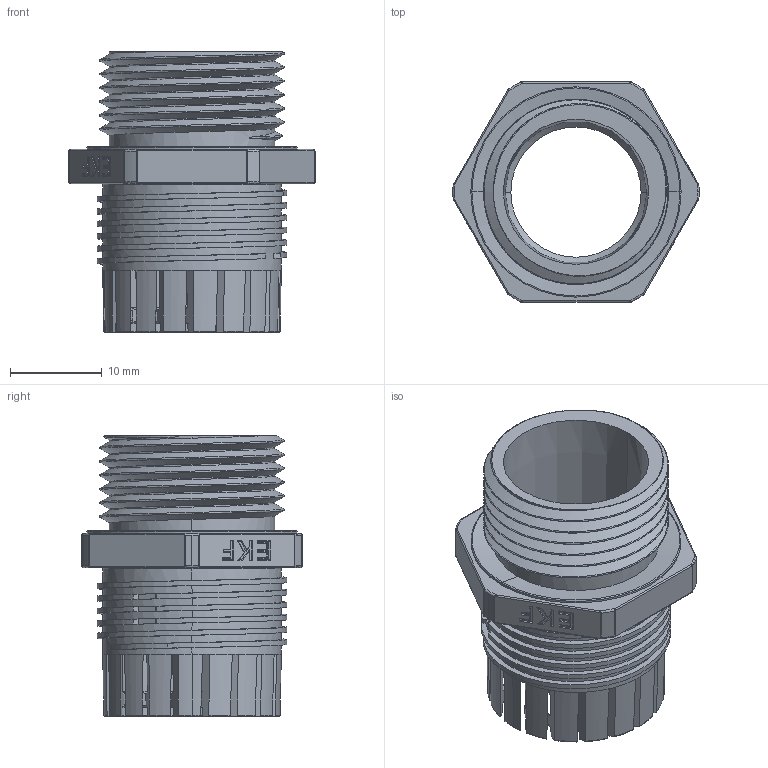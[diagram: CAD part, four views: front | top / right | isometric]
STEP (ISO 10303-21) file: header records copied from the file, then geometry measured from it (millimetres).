
FILE_DESCRIPTION (( 'STEP AP214' ), '1' );
FILE_NAME ('plc-pg-16-00.00.001 昢膼瘔 (PG16) #base (PG16)#.STEP', '2024-07-19T12:13:02', ( '' ), ( '' ), 'SwSTEP 2.0', 'SolidWorks 2021', '' );
FILE_SCHEMA (( 'AUTOMOTIVE_DESIGN' ));
Length unit declared in the file: millimetre
Products named in the file (1): plc-pg-16-00.00.001 昢膼瘔 (PG16) #base (PG16)#
Bounding box: 26.8 x 23.96 x 30.57 mm (x, y, z)
Volume: 3472.5 mm3; surface area: 5213.9 mm2
Topology: 1 solids, 2 shells, 488 faces, 1316 edges, 816 vertices
Faces by surface type: plane 124, cylinder 114, bspline 99, cone 92, torus 58, sphere 1
Entity records: 27501 total; most frequent: CARTESIAN_POINT 15348, ORIENTED_EDGE 2584, DIRECTION 1803, EDGE_CURVE 1292, VERTEX_POINT 816, AXIS2_PLACEMENT_3D 726, EDGE_LOOP 502, B_SPLINE_CURVE_WITH_KNOTS 489
